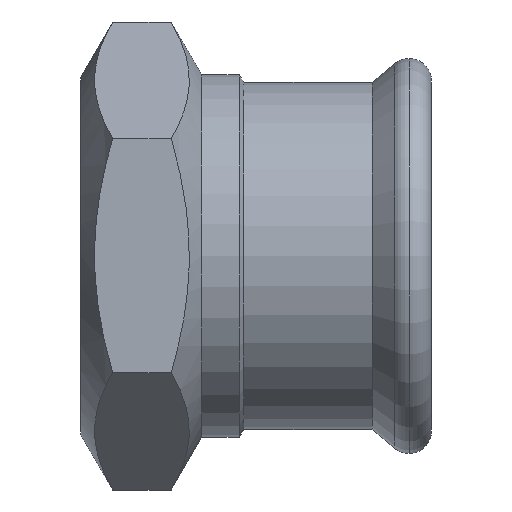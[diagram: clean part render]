
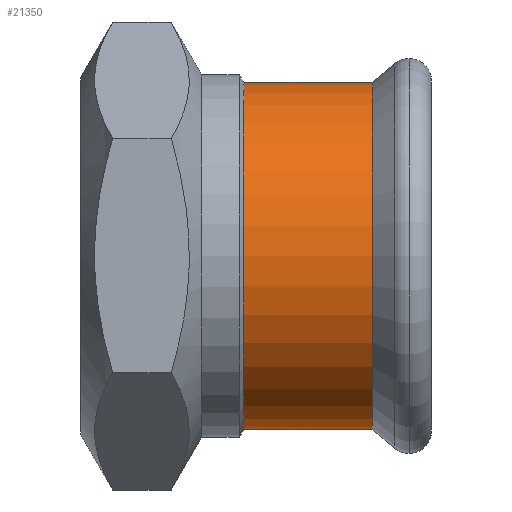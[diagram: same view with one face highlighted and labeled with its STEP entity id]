
A CAD part, top view. The second image highlights one B-rep face of the part: STEP entity #21350.
In plain terms, the highlighted cylindrical face has radius 28.7 mm (diameter 57.4 mm), a partial arc.
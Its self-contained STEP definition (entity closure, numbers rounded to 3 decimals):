
#840=CARTESIAN_POINT('',(864.91,43.056,
0.));
#850=VERTEX_POINT('',#840);
#1030=CARTESIAN_POINT('',(864.91,100.456,0.));
#1040=VERTEX_POINT('',#1030);
#1070=CARTESIAN_POINT('',(864.91,71.756,0.));
#1080=DIRECTION('',(-1.,0.,0.));
#1090=DIRECTION('',(0.,1.,0.));
#1100=AXIS2_PLACEMENT_3D('',#1070,#1080,#1090);
#1110=CIRCLE('',#1100,28.7);
#1120=EDGE_CURVE('',#850,#1040,#1110,.T.);
#20800=CARTESIAN_POINT('',(886.184,43.056,0.));
#20810=VERTEX_POINT('',#20800);
#20990=CARTESIAN_POINT('',(886.184,100.456,
0.));
#21000=VERTEX_POINT('',#20990);
#21030=CARTESIAN_POINT('',(886.184,71.756,0.));
#21040=DIRECTION('',(1.,0.,0.));
#21050=DIRECTION('',(0.,1.,0.));
#21060=AXIS2_PLACEMENT_3D('',#21030,#21040,#21050);
#21070=CIRCLE('',#21060,28.7);
#21130=CARTESIAN_POINT('',(873.288,71.756,0.));
#21140=DIRECTION('',(-1.,0.,0.));
#21150=DIRECTION('',(0.,1.,0.));
#21160=AXIS2_PLACEMENT_3D('',#21130,#21140,#21150);
#21170=CYLINDRICAL_SURFACE('',#21160,28.7);
#21180=CARTESIAN_POINT('',(873.288,100.456,0.));
#21190=DIRECTION('',(-1.,0.,0.));
#21200=VECTOR('',#21190,1.);
#21210=LINE('',#21180,#21200);
#21220=EDGE_CURVE('',#21000,#1040,#21210,.T.);
#21230=ORIENTED_EDGE('',*,*,#21220,.T.);
#21240=EDGE_CURVE('',#21000,#20810,#21070,.T.);
#21250=ORIENTED_EDGE('',*,*,#21240,.F.);
#21260=CARTESIAN_POINT('',(873.288,43.056,
0.));
#21270=DIRECTION('',(-1.,0.,0.));
#21280=VECTOR('',#21270,1.);
#21290=LINE('',#21260,#21280);
#21300=EDGE_CURVE('',#20810,#850,#21290,.T.);
#21310=ORIENTED_EDGE('',*,*,#21300,.F.);
#21320=ORIENTED_EDGE('',*,*,#1120,.F.);
#21330=EDGE_LOOP('',(#21320,#21310,#21250,#21230));
#21340=FACE_OUTER_BOUND('',#21330,.T.);
#21350=ADVANCED_FACE('',(#21340),#21170,.T.);
